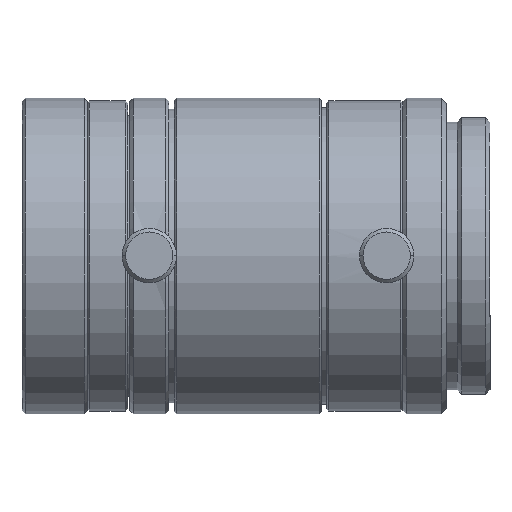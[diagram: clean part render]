
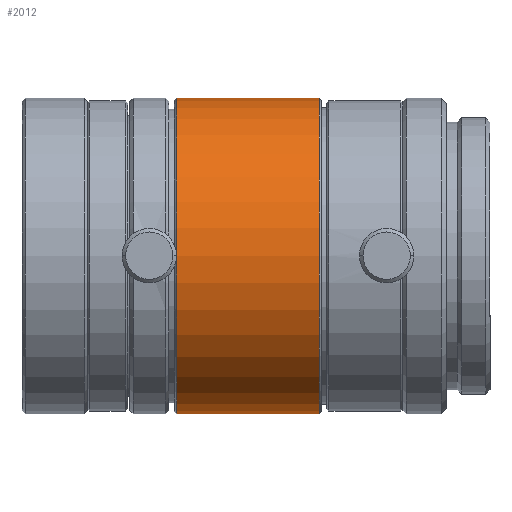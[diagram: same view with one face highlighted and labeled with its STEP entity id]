
A CAD part, top view. The second image highlights one B-rep face of the part: STEP entity #2012.
In plain terms, the highlighted cylindrical face has radius 14.5 mm (diameter 29 mm), a partial arc.
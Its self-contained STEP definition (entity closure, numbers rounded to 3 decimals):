
#28 = VERTEX_POINT ( 'NONE', #1656 ) ;
#169 = FACE_OUTER_BOUND ( 'NONE', #2150, .T. ) ;
#197 = CARTESIAN_POINT ( 'NONE',  ( -42.33, 14.5, 0. ) ) ;
#283 = CARTESIAN_POINT ( 'NONE',  ( -56.53, -14.5, 0. ) ) ;
#311 = AXIS2_PLACEMENT_3D ( 'NONE', #1179, #890, #3180 ) ;
#373 = CARTESIAN_POINT ( 'NONE',  ( -56.53, 14.5, 0. ) ) ;
#517 = LINE ( 'NONE', #283, #3475 ) ;
#561 = CIRCLE ( 'NONE', #1066, 14.5 ) ;
#653 = DIRECTION ( 'NONE',  ( -1., 0., 0. ) ) ;
#739 = CYLINDRICAL_SURFACE ( 'NONE', #311, 14.5 ) ;
#798 = ORIENTED_EDGE ( 'NONE', *, *, #3181, .T. ) ;
#890 = DIRECTION ( 'NONE',  ( -1., 0., 0. ) ) ;
#1066 = AXIS2_PLACEMENT_3D ( 'NONE', #1514, #3520, #1800 ) ;
#1153 = CARTESIAN_POINT ( 'NONE',  ( -29.23, 0., 0. ) ) ;
#1179 = CARTESIAN_POINT ( 'NONE',  ( -56.53, 0., 0. ) ) ;
#1235 = VERTEX_POINT ( 'NONE', #197 ) ;
#1435 = DIRECTION ( 'NONE',  ( 0., -1., 0. ) ) ;
#1514 = CARTESIAN_POINT ( 'NONE',  ( -42.33, 0., 0. ) ) ;
#1639 = LINE ( 'NONE', #373, #2298 ) ;
#1656 = CARTESIAN_POINT ( 'NONE',  ( -29.23, -14.5, 0. ) ) ;
#1778 = VERTEX_POINT ( 'NONE', #3504 ) ;
#1783 = EDGE_CURVE ( 'NONE', #1778, #1235, #1639, .T. ) ;
#1800 = DIRECTION ( 'NONE',  ( 0., -1., 0. ) ) ;
#1885 = EDGE_CURVE ( 'NONE', #28, #2459, #517, .T. ) ;
#2012 = ADVANCED_FACE ( 'NONE', ( #169 ), #739, .T. ) ;
#2103 = EDGE_CURVE ( 'NONE', #2459, #1235, #561, .T. ) ;
#2150 = EDGE_LOOP ( 'NONE', ( #798, #3296, #2213, #2208 ) ) ;
#2208 = ORIENTED_EDGE ( 'NONE', *, *, #1885, .F. ) ;
#2213 = ORIENTED_EDGE ( 'NONE', *, *, #2103, .F. ) ;
#2259 = DIRECTION ( 'NONE',  ( -1., 0., 0. ) ) ;
#2298 = VECTOR ( 'NONE', #653, 1000. ) ;
#2459 = VERTEX_POINT ( 'NONE', #2473 ) ;
#2473 = CARTESIAN_POINT ( 'NONE',  ( -42.33, -14.5, 0. ) ) ;
#2548 = AXIS2_PLACEMENT_3D ( 'NONE', #1153, #3148, #1435 ) ;
#2957 = CIRCLE ( 'NONE', #2548, 14.5 ) ;
#3148 = DIRECTION ( 'NONE',  ( -1., 0., 0. ) ) ;
#3180 = DIRECTION ( 'NONE',  ( 0., -1., 0. ) ) ;
#3181 = EDGE_CURVE ( 'NONE', #28, #1778, #2957, .T. ) ;
#3296 = ORIENTED_EDGE ( 'NONE', *, *, #1783, .T. ) ;
#3475 = VECTOR ( 'NONE', #2259, 1000. ) ;
#3504 = CARTESIAN_POINT ( 'NONE',  ( -29.23, 14.5, 0. ) ) ;
#3520 = DIRECTION ( 'NONE',  ( -1., 0., 0. ) ) ;
